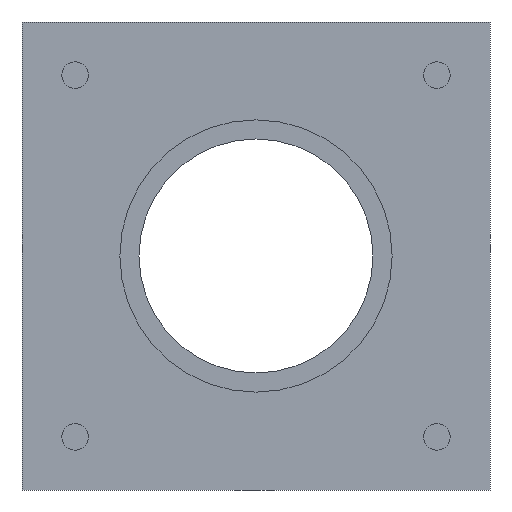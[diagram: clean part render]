
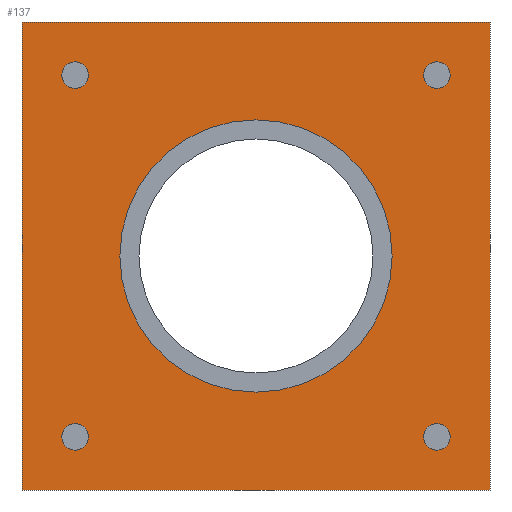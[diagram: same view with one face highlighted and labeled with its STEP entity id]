
A CAD part, front view. The second image highlights one B-rep face of the part: STEP entity #137.
In plain terms, the highlighted planar face has unit normal (0, -1, 0).
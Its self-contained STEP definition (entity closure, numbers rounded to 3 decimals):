
#21 = EDGE_CURVE('',#22,#24,#26,.T.);
#22 = VERTEX_POINT('',#23);
#23 = CARTESIAN_POINT('',(-22.,-5.,0.));
#24 = VERTEX_POINT('',#25);
#25 = CARTESIAN_POINT('',(-22.,-5.,44.));
#26 = SURFACE_CURVE('',#27,(#31,#43),.PCURVE_S1.);
#27 = LINE('',#28,#29);
#28 = CARTESIAN_POINT('',(-22.,-5.,0.));
#29 = VECTOR('',#30,1.);
#30 = DIRECTION('',(0.,0.,1.));
#31 = PCURVE('',#32,#37);
#32 = PLANE('',#33);
#33 = AXIS2_PLACEMENT_3D('',#34,#35,#36);
#34 = CARTESIAN_POINT('',(-22.,-5.,0.));
#35 = DIRECTION('',(1.,0.,0.));
#36 = DIRECTION('',(0.,0.,1.));
#37 = DEFINITIONAL_REPRESENTATION('',(#38),#42);
#38 = LINE('',#39,#40);
#39 = CARTESIAN_POINT('',(0.,0.));
#40 = VECTOR('',#41,1.);
#41 = DIRECTION('',(1.,0.));
#42 = ( GEOMETRIC_REPRESENTATION_CONTEXT(2) 
PARAMETRIC_REPRESENTATION_CONTEXT() REPRESENTATION_CONTEXT('2D SPACE',''
  ) );
#43 = PCURVE('',#44,#49);
#44 = PLANE('',#45);
#45 = AXIS2_PLACEMENT_3D('',#46,#47,#48);
#46 = CARTESIAN_POINT('',(-22.,-5.,0.));
#47 = DIRECTION('',(0.,1.,0.));
#48 = DIRECTION('',(0.,0.,1.));
#49 = DEFINITIONAL_REPRESENTATION('',(#50),#54);
#50 = LINE('',#51,#52);
#51 = CARTESIAN_POINT('',(0.,0.));
#52 = VECTOR('',#53,1.);
#53 = DIRECTION('',(1.,0.));
#54 = ( GEOMETRIC_REPRESENTATION_CONTEXT(2) 
PARAMETRIC_REPRESENTATION_CONTEXT() REPRESENTATION_CONTEXT('2D SPACE',''
  ) );
#72 = PLANE('',#73);
#73 = AXIS2_PLACEMENT_3D('',#74,#75,#76);
#74 = CARTESIAN_POINT('',(-22.,-5.,0.));
#75 = DIRECTION('',(0.,0.,1.));
#76 = DIRECTION('',(1.,0.,0.));
#126 = PLANE('',#127);
#127 = AXIS2_PLACEMENT_3D('',#128,#129,#130);
#128 = CARTESIAN_POINT('',(-22.,-5.,44.));
#129 = DIRECTION('',(0.,0.,1.));
#130 = DIRECTION('',(1.,0.,0.));
#137 = ADVANCED_FACE('',(#138,#213,#244,#275,#306,#337),#44,.F.);
#138 = FACE_BOUND('',#139,.F.);
#139 = EDGE_LOOP('',(#140,#163,#164,#187));
#140 = ORIENTED_EDGE('',*,*,#141,.F.);
#141 = EDGE_CURVE('',#22,#142,#144,.T.);
#142 = VERTEX_POINT('',#143);
#143 = CARTESIAN_POINT('',(22.,-5.,0.));
#144 = SURFACE_CURVE('',#145,(#149,#156),.PCURVE_S1.);
#145 = LINE('',#146,#147);
#146 = CARTESIAN_POINT('',(-22.,-5.,0.));
#147 = VECTOR('',#148,1.);
#148 = DIRECTION('',(1.,0.,0.));
#149 = PCURVE('',#44,#150);
#150 = DEFINITIONAL_REPRESENTATION('',(#151),#155);
#151 = LINE('',#152,#153);
#152 = CARTESIAN_POINT('',(0.,0.));
#153 = VECTOR('',#154,1.);
#154 = DIRECTION('',(0.,1.));
#155 = ( GEOMETRIC_REPRESENTATION_CONTEXT(2) 
PARAMETRIC_REPRESENTATION_CONTEXT() REPRESENTATION_CONTEXT('2D SPACE',''
  ) );
#156 = PCURVE('',#72,#157);
#157 = DEFINITIONAL_REPRESENTATION('',(#158),#162);
#158 = LINE('',#159,#160);
#159 = CARTESIAN_POINT('',(0.,0.));
#160 = VECTOR('',#161,1.);
#161 = DIRECTION('',(1.,0.));
#162 = ( GEOMETRIC_REPRESENTATION_CONTEXT(2) 
PARAMETRIC_REPRESENTATION_CONTEXT() REPRESENTATION_CONTEXT('2D SPACE',''
  ) );
#163 = ORIENTED_EDGE('',*,*,#21,.T.);
#164 = ORIENTED_EDGE('',*,*,#165,.T.);
#165 = EDGE_CURVE('',#24,#166,#168,.T.);
#166 = VERTEX_POINT('',#167);
#167 = CARTESIAN_POINT('',(22.,-5.,44.));
#168 = SURFACE_CURVE('',#169,(#173,#180),.PCURVE_S1.);
#169 = LINE('',#170,#171);
#170 = CARTESIAN_POINT('',(-22.,-5.,44.));
#171 = VECTOR('',#172,1.);
#172 = DIRECTION('',(1.,0.,0.));
#173 = PCURVE('',#44,#174);
#174 = DEFINITIONAL_REPRESENTATION('',(#175),#179);
#175 = LINE('',#176,#177);
#176 = CARTESIAN_POINT('',(44.,0.));
#177 = VECTOR('',#178,1.);
#178 = DIRECTION('',(0.,1.));
#179 = ( GEOMETRIC_REPRESENTATION_CONTEXT(2) 
PARAMETRIC_REPRESENTATION_CONTEXT() REPRESENTATION_CONTEXT('2D SPACE',''
  ) );
#180 = PCURVE('',#126,#181);
#181 = DEFINITIONAL_REPRESENTATION('',(#182),#186);
#182 = LINE('',#183,#184);
#183 = CARTESIAN_POINT('',(0.,0.));
#184 = VECTOR('',#185,1.);
#185 = DIRECTION('',(1.,0.));
#186 = ( GEOMETRIC_REPRESENTATION_CONTEXT(2) 
PARAMETRIC_REPRESENTATION_CONTEXT() REPRESENTATION_CONTEXT('2D SPACE',''
  ) );
#187 = ORIENTED_EDGE('',*,*,#188,.F.);
#188 = EDGE_CURVE('',#142,#166,#189,.T.);
#189 = SURFACE_CURVE('',#190,(#194,#201),.PCURVE_S1.);
#190 = LINE('',#191,#192);
#191 = CARTESIAN_POINT('',(22.,-5.,0.));
#192 = VECTOR('',#193,1.);
#193 = DIRECTION('',(0.,0.,1.));
#194 = PCURVE('',#44,#195);
#195 = DEFINITIONAL_REPRESENTATION('',(#196),#200);
#196 = LINE('',#197,#198);
#197 = CARTESIAN_POINT('',(0.,44.));
#198 = VECTOR('',#199,1.);
#199 = DIRECTION('',(1.,0.));
#200 = ( GEOMETRIC_REPRESENTATION_CONTEXT(2) 
PARAMETRIC_REPRESENTATION_CONTEXT() REPRESENTATION_CONTEXT('2D SPACE',''
  ) );
#201 = PCURVE('',#202,#207);
#202 = PLANE('',#203);
#203 = AXIS2_PLACEMENT_3D('',#204,#205,#206);
#204 = CARTESIAN_POINT('',(22.,-5.,0.));
#205 = DIRECTION('',(1.,0.,0.));
#206 = DIRECTION('',(0.,0.,1.));
#207 = DEFINITIONAL_REPRESENTATION('',(#208),#212);
#208 = LINE('',#209,#210);
#209 = CARTESIAN_POINT('',(0.,0.));
#210 = VECTOR('',#211,1.);
#211 = DIRECTION('',(1.,0.));
#212 = ( GEOMETRIC_REPRESENTATION_CONTEXT(2) 
PARAMETRIC_REPRESENTATION_CONTEXT() REPRESENTATION_CONTEXT('2D SPACE',''
  ) );
#213 = FACE_BOUND('',#214,.F.);
#214 = EDGE_LOOP('',(#215));
#215 = ORIENTED_EDGE('',*,*,#216,.F.);
#216 = EDGE_CURVE('',#217,#217,#219,.T.);
#217 = VERTEX_POINT('',#218);
#218 = CARTESIAN_POINT('',(-17.,-5.,6.25));
#219 = SURFACE_CURVE('',#220,(#225,#232),.PCURVE_S1.);
#220 = CIRCLE('',#221,1.25);
#221 = AXIS2_PLACEMENT_3D('',#222,#223,#224);
#222 = CARTESIAN_POINT('',(-17.,-5.,5.));
#223 = DIRECTION('',(0.,1.,0.));
#224 = DIRECTION('',(0.,-0.,1.));
#225 = PCURVE('',#44,#226);
#226 = DEFINITIONAL_REPRESENTATION('',(#227),#231);
#227 = CIRCLE('',#228,1.25);
#228 = AXIS2_PLACEMENT_2D('',#229,#230);
#229 = CARTESIAN_POINT('',(5.,5.));
#230 = DIRECTION('',(1.,0.));
#231 = ( GEOMETRIC_REPRESENTATION_CONTEXT(2) 
PARAMETRIC_REPRESENTATION_CONTEXT() REPRESENTATION_CONTEXT('2D SPACE',''
  ) );
#232 = PCURVE('',#233,#238);
#233 = CYLINDRICAL_SURFACE('',#234,1.25);
#234 = AXIS2_PLACEMENT_3D('',#235,#236,#237);
#235 = CARTESIAN_POINT('',(-17.,-5.,5.));
#236 = DIRECTION('',(0.,1.,0.));
#237 = DIRECTION('',(0.,-0.,1.));
#238 = DEFINITIONAL_REPRESENTATION('',(#239),#243);
#239 = LINE('',#240,#241);
#240 = CARTESIAN_POINT('',(0.,0.));
#241 = VECTOR('',#242,1.);
#242 = DIRECTION('',(1.,0.));
#243 = ( GEOMETRIC_REPRESENTATION_CONTEXT(2) 
PARAMETRIC_REPRESENTATION_CONTEXT() REPRESENTATION_CONTEXT('2D SPACE',''
  ) );
#244 = FACE_BOUND('',#245,.F.);
#245 = EDGE_LOOP('',(#246));
#246 = ORIENTED_EDGE('',*,*,#247,.F.);
#247 = EDGE_CURVE('',#248,#248,#250,.T.);
#248 = VERTEX_POINT('',#249);
#249 = CARTESIAN_POINT('',(-17.,-5.,40.25));
#250 = SURFACE_CURVE('',#251,(#256,#263),.PCURVE_S1.);
#251 = CIRCLE('',#252,1.25);
#252 = AXIS2_PLACEMENT_3D('',#253,#254,#255);
#253 = CARTESIAN_POINT('',(-17.,-5.,39.));
#254 = DIRECTION('',(0.,1.,0.));
#255 = DIRECTION('',(0.,-0.,1.));
#256 = PCURVE('',#44,#257);
#257 = DEFINITIONAL_REPRESENTATION('',(#258),#262);
#258 = CIRCLE('',#259,1.25);
#259 = AXIS2_PLACEMENT_2D('',#260,#261);
#260 = CARTESIAN_POINT('',(39.,5.));
#261 = DIRECTION('',(1.,0.));
#262 = ( GEOMETRIC_REPRESENTATION_CONTEXT(2) 
PARAMETRIC_REPRESENTATION_CONTEXT() REPRESENTATION_CONTEXT('2D SPACE',''
  ) );
#263 = PCURVE('',#264,#269);
#264 = CYLINDRICAL_SURFACE('',#265,1.25);
#265 = AXIS2_PLACEMENT_3D('',#266,#267,#268);
#266 = CARTESIAN_POINT('',(-17.,-5.,39.));
#267 = DIRECTION('',(0.,1.,0.));
#268 = DIRECTION('',(0.,-0.,1.));
#269 = DEFINITIONAL_REPRESENTATION('',(#270),#274);
#270 = LINE('',#271,#272);
#271 = CARTESIAN_POINT('',(0.,0.));
#272 = VECTOR('',#273,1.);
#273 = DIRECTION('',(1.,0.));
#274 = ( GEOMETRIC_REPRESENTATION_CONTEXT(2) 
PARAMETRIC_REPRESENTATION_CONTEXT() REPRESENTATION_CONTEXT('2D SPACE',''
  ) );
#275 = FACE_BOUND('',#276,.F.);
#276 = EDGE_LOOP('',(#277));
#277 = ORIENTED_EDGE('',*,*,#278,.F.);
#278 = EDGE_CURVE('',#279,#279,#281,.T.);
#279 = VERTEX_POINT('',#280);
#280 = CARTESIAN_POINT('',(17.,-5.,6.25));
#281 = SURFACE_CURVE('',#282,(#287,#294),.PCURVE_S1.);
#282 = CIRCLE('',#283,1.25);
#283 = AXIS2_PLACEMENT_3D('',#284,#285,#286);
#284 = CARTESIAN_POINT('',(17.,-5.,5.));
#285 = DIRECTION('',(0.,1.,0.));
#286 = DIRECTION('',(0.,-0.,1.));
#287 = PCURVE('',#44,#288);
#288 = DEFINITIONAL_REPRESENTATION('',(#289),#293);
#289 = CIRCLE('',#290,1.25);
#290 = AXIS2_PLACEMENT_2D('',#291,#292);
#291 = CARTESIAN_POINT('',(5.,39.));
#292 = DIRECTION('',(1.,0.));
#293 = ( GEOMETRIC_REPRESENTATION_CONTEXT(2) 
PARAMETRIC_REPRESENTATION_CONTEXT() REPRESENTATION_CONTEXT('2D SPACE',''
  ) );
#294 = PCURVE('',#295,#300);
#295 = CYLINDRICAL_SURFACE('',#296,1.25);
#296 = AXIS2_PLACEMENT_3D('',#297,#298,#299);
#297 = CARTESIAN_POINT('',(17.,-5.,5.));
#298 = DIRECTION('',(0.,1.,0.));
#299 = DIRECTION('',(0.,-0.,1.));
#300 = DEFINITIONAL_REPRESENTATION('',(#301),#305);
#301 = LINE('',#302,#303);
#302 = CARTESIAN_POINT('',(0.,0.));
#303 = VECTOR('',#304,1.);
#304 = DIRECTION('',(1.,0.));
#305 = ( GEOMETRIC_REPRESENTATION_CONTEXT(2) 
PARAMETRIC_REPRESENTATION_CONTEXT() REPRESENTATION_CONTEXT('2D SPACE',''
  ) );
#306 = FACE_BOUND('',#307,.F.);
#307 = EDGE_LOOP('',(#308));
#308 = ORIENTED_EDGE('',*,*,#309,.F.);
#309 = EDGE_CURVE('',#310,#310,#312,.T.);
#310 = VERTEX_POINT('',#311);
#311 = CARTESIAN_POINT('',(0.,-5.,34.8));
#312 = SURFACE_CURVE('',#313,(#318,#325),.PCURVE_S1.);
#313 = CIRCLE('',#314,12.8);
#314 = AXIS2_PLACEMENT_3D('',#315,#316,#317);
#315 = CARTESIAN_POINT('',(0.,-5.,22.));
#316 = DIRECTION('',(0.,1.,0.));
#317 = DIRECTION('',(0.,-0.,1.));
#318 = PCURVE('',#44,#319);
#319 = DEFINITIONAL_REPRESENTATION('',(#320),#324);
#320 = CIRCLE('',#321,12.8);
#321 = AXIS2_PLACEMENT_2D('',#322,#323);
#322 = CARTESIAN_POINT('',(22.,22.));
#323 = DIRECTION('',(1.,0.));
#324 = ( GEOMETRIC_REPRESENTATION_CONTEXT(2) 
PARAMETRIC_REPRESENTATION_CONTEXT() REPRESENTATION_CONTEXT('2D SPACE',''
  ) );
#325 = PCURVE('',#326,#331);
#326 = CYLINDRICAL_SURFACE('',#327,12.8);
#327 = AXIS2_PLACEMENT_3D('',#328,#329,#330);
#328 = CARTESIAN_POINT('',(0.,-5.,22.));
#329 = DIRECTION('',(0.,1.,0.));
#330 = DIRECTION('',(0.,-0.,1.));
#331 = DEFINITIONAL_REPRESENTATION('',(#332),#336);
#332 = LINE('',#333,#334);
#333 = CARTESIAN_POINT('',(0.,0.));
#334 = VECTOR('',#335,1.);
#335 = DIRECTION('',(1.,0.));
#336 = ( GEOMETRIC_REPRESENTATION_CONTEXT(2) 
PARAMETRIC_REPRESENTATION_CONTEXT() REPRESENTATION_CONTEXT('2D SPACE',''
  ) );
#337 = FACE_BOUND('',#338,.F.);
#338 = EDGE_LOOP('',(#339));
#339 = ORIENTED_EDGE('',*,*,#340,.F.);
#340 = EDGE_CURVE('',#341,#341,#343,.T.);
#341 = VERTEX_POINT('',#342);
#342 = CARTESIAN_POINT('',(17.,-5.,40.25));
#343 = SURFACE_CURVE('',#344,(#349,#356),.PCURVE_S1.);
#344 = CIRCLE('',#345,1.25);
#345 = AXIS2_PLACEMENT_3D('',#346,#347,#348);
#346 = CARTESIAN_POINT('',(17.,-5.,39.));
#347 = DIRECTION('',(0.,1.,0.));
#348 = DIRECTION('',(0.,-0.,1.));
#349 = PCURVE('',#44,#350);
#350 = DEFINITIONAL_REPRESENTATION('',(#351),#355);
#351 = CIRCLE('',#352,1.25);
#352 = AXIS2_PLACEMENT_2D('',#353,#354);
#353 = CARTESIAN_POINT('',(39.,39.));
#354 = DIRECTION('',(1.,0.));
#355 = ( GEOMETRIC_REPRESENTATION_CONTEXT(2) 
PARAMETRIC_REPRESENTATION_CONTEXT() REPRESENTATION_CONTEXT('2D SPACE',''
  ) );
#356 = PCURVE('',#357,#362);
#357 = CYLINDRICAL_SURFACE('',#358,1.25);
#358 = AXIS2_PLACEMENT_3D('',#359,#360,#361);
#359 = CARTESIAN_POINT('',(17.,-5.,39.));
#360 = DIRECTION('',(0.,1.,0.));
#361 = DIRECTION('',(0.,-0.,1.));
#362 = DEFINITIONAL_REPRESENTATION('',(#363),#367);
#363 = LINE('',#364,#365);
#364 = CARTESIAN_POINT('',(0.,0.));
#365 = VECTOR('',#366,1.);
#366 = DIRECTION('',(1.,0.));
#367 = ( GEOMETRIC_REPRESENTATION_CONTEXT(2) 
PARAMETRIC_REPRESENTATION_CONTEXT() REPRESENTATION_CONTEXT('2D SPACE',''
  ) );
